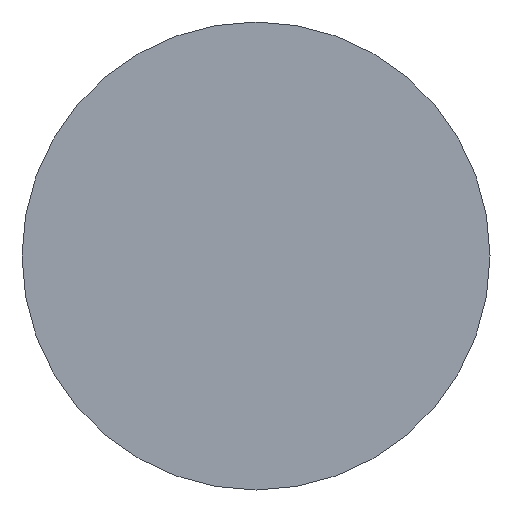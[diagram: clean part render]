
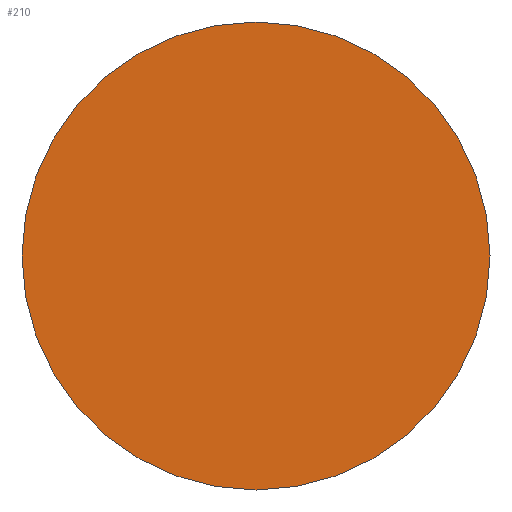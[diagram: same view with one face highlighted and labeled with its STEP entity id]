
A CAD part, left-side view. The second image highlights one B-rep face of the part: STEP entity #210.
In plain terms, the highlighted planar face has unit normal (-1, 0, 0).
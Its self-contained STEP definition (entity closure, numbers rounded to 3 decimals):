
#2 = CARTESIAN_POINT ( 'NONE',  ( 0., 0., 0. ) ) ;
#8 = EDGE_CURVE ( 'NONE', #240, #257, #113, .T. ) ;
#17 = DIRECTION ( 'NONE',  ( 1., 0., 0. ) ) ;
#23 = ORIENTED_EDGE ( 'NONE', *, *, #27, .F. ) ;
#27 = EDGE_CURVE ( 'NONE', #257, #240, #30, .T. ) ;
#30 = CIRCLE ( 'NONE', #146, 16. ) ;
#47 = DIRECTION ( 'NONE',  ( 1., 0., 0. ) ) ;
#54 = EDGE_LOOP ( 'NONE', ( #300, #23 ) ) ;
#69 = DIRECTION ( 'NONE',  ( -1., 0., 0. ) ) ;
#73 = AXIS2_PLACEMENT_3D ( 'NONE', #127, #69, #298 ) ;
#113 = CIRCLE ( 'NONE', #205, 16. ) ;
#127 = CARTESIAN_POINT ( 'NONE',  ( 0., 0., 0. ) ) ;
#144 = CARTESIAN_POINT ( 'NONE',  ( 0., 0., 0. ) ) ;
#146 = AXIS2_PLACEMENT_3D ( 'NONE', #2, #47, #282 ) ;
#175 = CARTESIAN_POINT ( 'NONE',  ( 0., -16., 0. ) ) ;
#205 = AXIS2_PLACEMENT_3D ( 'NONE', #144, #17, #221 ) ;
#210 = ADVANCED_FACE ( 'NONE', ( #271 ), #280, .T. ) ;
#221 = DIRECTION ( 'NONE',  ( 0., 1., 0. ) ) ;
#239 = CARTESIAN_POINT ( 'NONE',  ( 0., 16., 0. ) ) ;
#240 = VERTEX_POINT ( 'NONE', #239 ) ;
#257 = VERTEX_POINT ( 'NONE', #175 ) ;
#271 = FACE_OUTER_BOUND ( 'NONE', #54, .T. ) ;
#280 = PLANE ( 'NONE',  #73 ) ;
#282 = DIRECTION ( 'NONE',  ( 0., 1., 0. ) ) ;
#298 = DIRECTION ( 'NONE',  ( 0., -1., 0. ) ) ;
#300 = ORIENTED_EDGE ( 'NONE', *, *, #8, .F. ) ;
